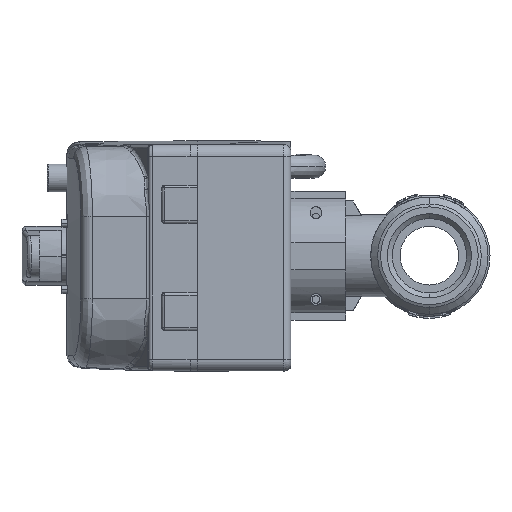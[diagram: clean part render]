
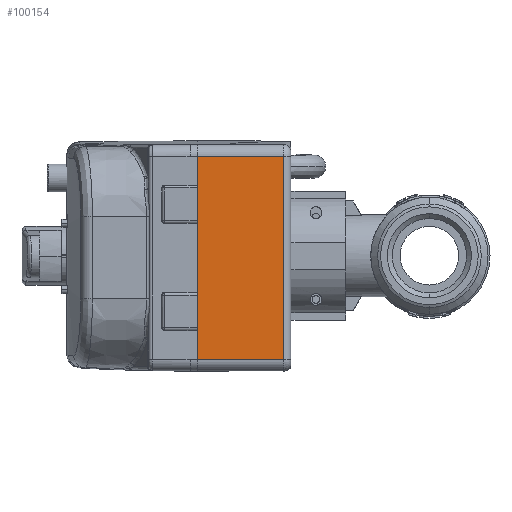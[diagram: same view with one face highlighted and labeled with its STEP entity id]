
A CAD part, left-side view. The second image highlights one B-rep face of the part: STEP entity #100154.
In plain terms, the highlighted planar face has unit normal (-1, 0, -0.009) as drawn and (0, -1, 0) by its records, which use the part's own axes.
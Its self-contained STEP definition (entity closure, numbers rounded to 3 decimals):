
#1534 = VERTEX_POINT ( 'NONE', #22690 ) ;
#1590 = CARTESIAN_POINT ( 'NONE',  ( -26., -53.016, 22. ) ) ;
#4047 = CARTESIAN_POINT ( 'NONE',  ( 18.602, -53.016, 24. ) ) ;
#4348 = LINE ( 'NONE', #75041, #59793 ) ;
#11039 = VERTEX_POINT ( 'NONE', #103106 ) ;
#12960 = DIRECTION ( 'NONE',  ( -1., 0., 0. ) ) ;
#15306 = CARTESIAN_POINT ( 'NONE',  ( -26., -53.016, 0. ) ) ;
#17814 = LINE ( 'NONE', #1590, #88990 ) ;
#17827 = CARTESIAN_POINT ( 'NONE',  ( 18.602, -53.016, 0. ) ) ;
#20280 = EDGE_CURVE ( 'NONE', #1534, #11039, #17814, .T. ) ;
#20765 = DIRECTION ( 'NONE',  ( 0., 1., 0. ) ) ;
#20775 = ORIENTED_EDGE ( 'NONE', *, *, #20280, .T. ) ;
#21348 = VERTEX_POINT ( 'NONE', #15306 ) ;
#22690 = CARTESIAN_POINT ( 'NONE',  ( 26., -53.016, 22. ) ) ;
#30802 = ORIENTED_EDGE ( 'NONE', *, *, #37284, .T. ) ;
#31442 = DIRECTION ( 'NONE',  ( -1., 0., 0. ) ) ;
#34416 = FACE_OUTER_BOUND ( 'NONE', #76850, .T. ) ;
#34719 = DIRECTION ( 'NONE',  ( 0., 0., -1. ) ) ;
#35946 = AXIS2_PLACEMENT_3D ( 'NONE', #4047, #20765, #12960 ) ;
#37284 = EDGE_CURVE ( 'NONE', #11039, #21348, #100683, .T. ) ;
#38403 = VECTOR ( 'NONE', #59640, 1000. ) ;
#44390 = VECTOR ( 'NONE', #77133, 1000. ) ;
#47640 = CARTESIAN_POINT ( 'NONE',  ( 26., -53.016, 0. ) ) ;
#51524 = CARTESIAN_POINT ( 'NONE',  ( -26., -53.016, 24. ) ) ;
#57563 = LINE ( 'NONE', #17827, #38403 ) ;
#59640 = DIRECTION ( 'NONE',  ( 1., 0., 0. ) ) ;
#59793 = VECTOR ( 'NONE', #34719, 1000. ) ;
#63217 = EDGE_CURVE ( 'NONE', #1534, #68616, #4348, .T. ) ;
#68616 = VERTEX_POINT ( 'NONE', #47640 ) ;
#75041 = CARTESIAN_POINT ( 'NONE',  ( 26., -53.016, 24. ) ) ;
#76850 = EDGE_LOOP ( 'NONE', ( #86656, #20775, #30802, #79817 ) ) ;
#77133 = DIRECTION ( 'NONE',  ( 0., 0., -1. ) ) ;
#79817 = ORIENTED_EDGE ( 'NONE', *, *, #89095, .T. ) ;
#86656 = ORIENTED_EDGE ( 'NONE', *, *, #63217, .F. ) ;
#88990 = VECTOR ( 'NONE', #31442, 1000. ) ;
#89095 = EDGE_CURVE ( 'NONE', #21348, #68616, #57563, .T. ) ;
#92483 = PLANE ( 'NONE',  #35946 ) ;
#100154 = ADVANCED_FACE ( 'NONE', ( #34416 ), #92483, .F. ) ;
#100683 = LINE ( 'NONE', #51524, #44390 ) ;
#103106 = CARTESIAN_POINT ( 'NONE',  ( -26., -53.016, 22. ) ) ;
